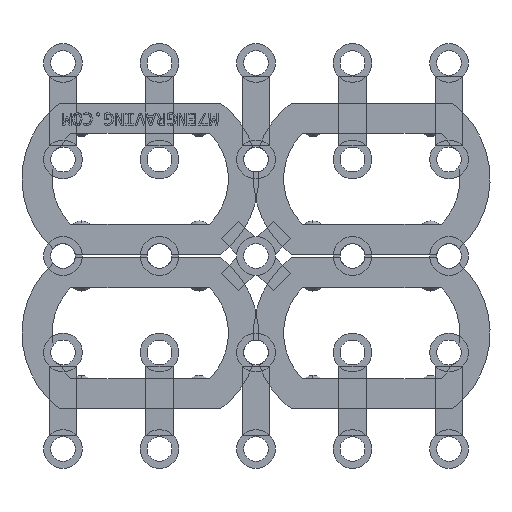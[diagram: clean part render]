
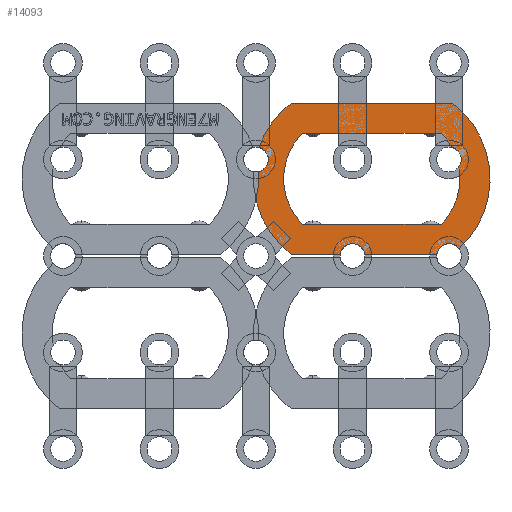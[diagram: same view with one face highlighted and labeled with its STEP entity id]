
A CAD part, front view. The second image highlights one B-rep face of the part: STEP entity #14093.
In plain terms, the highlighted planar face has unit normal (0, -1, 0).
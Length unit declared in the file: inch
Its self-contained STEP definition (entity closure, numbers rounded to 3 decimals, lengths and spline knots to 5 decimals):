
#27 = VERTEX_POINT ( 'NONE', #36053 ) ;
#145 = VERTEX_POINT ( 'NONE', #45286 ) ;
#1377 = CIRCLE ( 'NONE', #49859, 0.12598 ) ;
#1410 = DIRECTION ( 'NONE',  ( 0., -1., 0. ) ) ;
#2148 = EDGE_LOOP ( 'NONE', ( #16636, #15461, #48385, #39618, #18187, #45435 ) ) ;
#2540 = CIRCLE ( 'NONE', #21348, 0.65901 ) ;
#2716 = CIRCLE ( 'NONE', #12599, 0.96599 ) ;
#2901 = DIRECTION ( 'NONE',  ( -1., 0., 0. ) ) ;
#2913 = VERTEX_POINT ( 'NONE', #5153 ) ;
#3065 = DIRECTION ( 'NONE',  ( 0., 0., -1. ) ) ;
#3200 = DIRECTION ( 'NONE',  ( 0., 0., -1. ) ) ;
#3635 = VERTEX_POINT ( 'NONE', #37596 ) ;
#4073 = CARTESIAN_POINT ( 'NONE',  ( -0.79066, -0.25, -0.77099 ) ) ;
#4125 = VERTEX_POINT ( 'NONE', #26669 ) ;
#4253 = VERTEX_POINT ( 'NONE', #8488 ) ;
#4957 = EDGE_CURVE ( 'NONE', #13465, #20874, #1377, .T. ) ;
#5135 = FACE_OUTER_BOUND ( 'NONE', #20537, .T. ) ;
#5153 = CARTESIAN_POINT ( 'NONE',  ( -0.70796, -0.25, 0.46401 ) ) ;
#5266 = DIRECTION ( 'NONE',  ( 0., 0., -1. ) ) ;
#5584 = CARTESIAN_POINT ( 'NONE',  ( -0.24, -0.25, 0. ) ) ;
#6337 = ORIENTED_EDGE ( 'NONE', *, *, #15421, .T. ) ;
#6739 = DIRECTION ( 'NONE',  ( 0., 0., -1. ) ) ;
#6917 = DIRECTION ( 'NONE',  ( 0., -1., 0. ) ) ;
#7107 = VERTEX_POINT ( 'NONE', #43853 ) ;
#7158 = CIRCLE ( 'NONE', #40300, 0.96599 ) ;
#7319 = ORIENTED_EDGE ( 'NONE', *, *, #4957, .F. ) ;
#7932 = EDGE_CURVE ( 'NONE', #3635, #27, #7158, .T. ) ;
#8488 = CARTESIAN_POINT ( 'NONE',  ( -0.82199, -0.25, 0.77099 ) ) ;
#8886 = ORIENTED_EDGE ( 'NONE', *, *, #14097, .T. ) ;
#10384 = CARTESIAN_POINT ( 'NONE',  ( -0.07194, -0.25, -0.77099 ) ) ;
#10623 = CARTESIAN_POINT ( 'NONE',  ( -0.74446, -0.25, 0.46401 ) ) ;
#11737 = DIRECTION ( 'NONE',  ( 0., -1., 0. ) ) ;
#12599 = AXIS2_PLACEMENT_3D ( 'NONE', #29801, #49736, #37601 ) ;
#12669 = CIRCLE ( 'NONE', #13330, 0.12598 ) ;
#12691 = AXIS2_PLACEMENT_3D ( 'NONE', #31414, #19917, #46604 ) ;
#12852 = VERTEX_POINT ( 'NONE', #20287 ) ;
#13330 = AXIS2_PLACEMENT_3D ( 'NONE', #26122, #22240, #3065 ) ;
#13465 = VERTEX_POINT ( 'NONE', #19367 ) ;
#14093 = ADVANCED_FACE ( 'NONE', ( #5135, #24399 ), #49070, .T. ) ;
#14097 = EDGE_CURVE ( 'NONE', #13465, #145, #2716, .T. ) ;
#14177 = LINE ( 'NONE', #10623, #41404 ) ;
#14953 = CIRCLE ( 'NONE', #21170, 0.12598 ) ;
#15421 = EDGE_CURVE ( 'NONE', #26326, #20874, #26081, .T. ) ;
#15461 = ORIENTED_EDGE ( 'NONE', *, *, #35454, .F. ) ;
#15724 = EDGE_CURVE ( 'NONE', #2913, #29574, #43643, .T. ) ;
#16636 = ORIENTED_EDGE ( 'NONE', *, *, #20125, .F. ) ;
#17054 = CARTESIAN_POINT ( 'NONE',  ( 0.74446, -0.25, -0.46401 ) ) ;
#17691 = LINE ( 'NONE', #4073, #21326 ) ;
#17824 = EDGE_CURVE ( 'NONE', #26326, #48034, #12669, .T. ) ;
#17918 = VECTOR ( 'NONE', #44871, 39.37008 ) ;
#18136 = AXIS2_PLACEMENT_3D ( 'NONE', #5584, #1410, #5266 ) ;
#18187 = ORIENTED_EDGE ( 'NONE', *, *, #27364, .F. ) ;
#19291 = CIRCLE ( 'NONE', #33779, 0.12598 ) ;
#19367 = CARTESIAN_POINT ( 'NONE',  ( 0.89013, -0.25, -0.71447 ) ) ;
#19917 = DIRECTION ( 'NONE',  ( 0., -1., 0. ) ) ;
#20009 = CARTESIAN_POINT ( 'NONE',  ( -0.24, -0.25, 0. ) ) ;
#20125 = EDGE_CURVE ( 'NONE', #31878, #43821, #14953, .T. ) ;
#20287 = CARTESIAN_POINT ( 'NONE',  ( 0.70796, -0.25, 0.46401 ) ) ;
#20537 = EDGE_LOOP ( 'NONE', ( #27663, #6337, #7319, #8886, #49993, #20583, #30555, #49883, #30501, #26340 ) ) ;
#20583 = ORIENTED_EDGE ( 'NONE', *, *, #32844, .T. ) ;
#20874 = VERTEX_POINT ( 'NONE', #28418 ) ;
#21170 = AXIS2_PLACEMENT_3D ( 'NONE', #40151, #28636, #44339 ) ;
#21326 = VECTOR ( 'NONE', #23768, 39.37008 ) ;
#21348 = AXIS2_PLACEMENT_3D ( 'NONE', #38339, #42196, #35093 ) ;
#22240 = DIRECTION ( 'NONE',  ( 0., -1., 0. ) ) ;
#22435 = CARTESIAN_POINT ( 'NONE',  ( 0.88784, -0.25, 0.1208 ) ) ;
#22859 = CIRCLE ( 'NONE', #47742, 0.96599 ) ;
#23170 = CARTESIAN_POINT ( 'NONE',  ( -0.32176, -0.25, -0.77099 ) ) ;
#23768 = DIRECTION ( 'NONE',  ( 1., 0., 0. ) ) ;
#24399 = FACE_BOUND ( 'NONE', #2148, .T. ) ;
#25724 = DIRECTION ( 'NONE',  ( 0., -1., 0. ) ) ;
#25932 = DIRECTION ( 'NONE',  ( 0., -1., 0. ) ) ;
#25988 = DIRECTION ( 'NONE',  ( 1., 0., 0. ) ) ;
#26081 = LINE ( 'NONE', #41377, #48477 ) ;
#26122 = CARTESIAN_POINT ( 'NONE',  ( -0.19685, -0.25, -0.7874 ) ) ;
#26326 = VERTEX_POINT ( 'NONE', #10384 ) ;
#26340 = ORIENTED_EDGE ( 'NONE', *, *, #29503, .T. ) ;
#26669 = CARTESIAN_POINT ( 'NONE',  ( 0.70796, -0.25, -0.46401 ) ) ;
#26972 = CIRCLE ( 'NONE', #28725, 0.65901 ) ;
#27261 = DIRECTION ( 'NONE',  ( 0., 0., -1. ) ) ;
#27364 = EDGE_CURVE ( 'NONE', #12852, #2913, #14177, .T. ) ;
#27510 = VERTEX_POINT ( 'NONE', #49939 ) ;
#27663 = ORIENTED_EDGE ( 'NONE', *, *, #17824, .F. ) ;
#28418 = CARTESIAN_POINT ( 'NONE',  ( 0.66249, -0.25, -0.77099 ) ) ;
#28636 = DIRECTION ( 'NONE',  ( 0., -1., 0. ) ) ;
#28725 = AXIS2_PLACEMENT_3D ( 'NONE', #49994, #42821, #31166 ) ;
#28741 = VECTOR ( 'NONE', #44098, 39.37008 ) ;
#29092 = DIRECTION ( 'NONE',  ( 0., 0., -1. ) ) ;
#29503 = EDGE_CURVE ( 'NONE', #27, #48034, #17691, .T. ) ;
#29574 = VERTEX_POINT ( 'NONE', #43356 ) ;
#29801 = CARTESIAN_POINT ( 'NONE',  ( 0.24, -0.25, 0. ) ) ;
#29929 = DIRECTION ( 'NONE',  ( 0., 0., -1. ) ) ;
#30324 = CARTESIAN_POINT ( 'NONE',  ( -1.1811, -0.25, 0.19685 ) ) ;
#30501 = ORIENTED_EDGE ( 'NONE', *, *, #7932, .T. ) ;
#30555 = ORIENTED_EDGE ( 'NONE', *, *, #40848, .F. ) ;
#31166 = DIRECTION ( 'NONE',  ( 0., 0., -1. ) ) ;
#31233 = LINE ( 'NONE', #17054, #28741 ) ;
#31414 = CARTESIAN_POINT ( 'NONE',  ( -1.1811, -0.25, 0.19685 ) ) ;
#31650 = EDGE_CURVE ( 'NONE', #29574, #4125, #31233, .T. ) ;
#31878 = VERTEX_POINT ( 'NONE', #22435 ) ;
#32844 = EDGE_CURVE ( 'NONE', #4253, #27510, #22859, .T. ) ;
#32959 = CARTESIAN_POINT ( 'NONE',  ( -0.24, -0.25, 0. ) ) ;
#33779 = AXIS2_PLACEMENT_3D ( 'NONE', #30324, #6917, #3200 ) ;
#34948 = AXIS2_PLACEMENT_3D ( 'NONE', #37935, #25932, #6739 ) ;
#35093 = DIRECTION ( 'NONE',  ( 0., 0., -1. ) ) ;
#35127 = EDGE_CURVE ( 'NONE', #145, #4253, #43342, .T. ) ;
#35454 = EDGE_CURVE ( 'NONE', #4125, #31878, #26972, .T. ) ;
#36053 = CARTESIAN_POINT ( 'NONE',  ( -0.82199, -0.25, -0.77099 ) ) ;
#37198 = DIRECTION ( 'NONE',  ( 0., -1., 0. ) ) ;
#37596 = CARTESIAN_POINT ( 'NONE',  ( -1.20324, -0.25, 0.07283 ) ) ;
#37601 = DIRECTION ( 'NONE',  ( 0., 0., -1. ) ) ;
#37935 = CARTESIAN_POINT ( 'NONE',  ( -0.24, -0.25, 0. ) ) ;
#38339 = CARTESIAN_POINT ( 'NONE',  ( 0.24, -0.25, 0. ) ) ;
#39618 = ORIENTED_EDGE ( 'NONE', *, *, #15724, .F. ) ;
#40151 = CARTESIAN_POINT ( 'NONE',  ( 0.7874, -0.25, 0.19685 ) ) ;
#40300 = AXIS2_PLACEMENT_3D ( 'NONE', #32959, #37198, #29092 ) ;
#40544 = CIRCLE ( 'NONE', #12691, 0.12598 ) ;
#40848 = EDGE_CURVE ( 'NONE', #7107, #27510, #40544, .T. ) ;
#41370 = CARTESIAN_POINT ( 'NONE',  ( 0.8164, -0.25, 0.31945 ) ) ;
#41377 = CARTESIAN_POINT ( 'NONE',  ( -0.79066, -0.25, -0.77099 ) ) ;
#41404 = VECTOR ( 'NONE', #2901, 39.37008 ) ;
#42196 = DIRECTION ( 'NONE',  ( 0., -1., 0. ) ) ;
#42325 = EDGE_CURVE ( 'NONE', #3635, #7107, #19291, .T. ) ;
#42821 = DIRECTION ( 'NONE',  ( 0., -1., 0. ) ) ;
#43342 = LINE ( 'NONE', #44371, #17918 ) ;
#43356 = CARTESIAN_POINT ( 'NONE',  ( -0.70796, -0.25, -0.46401 ) ) ;
#43643 = CIRCLE ( 'NONE', #18136, 0.65901 ) ;
#43821 = VERTEX_POINT ( 'NONE', #41370 ) ;
#43853 = CARTESIAN_POINT ( 'NONE',  ( -1.1811, -0.25, 0.07087 ) ) ;
#44098 = DIRECTION ( 'NONE',  ( 1., 0., 0. ) ) ;
#44339 = DIRECTION ( 'NONE',  ( 0., 0., -1. ) ) ;
#44371 = CARTESIAN_POINT ( 'NONE',  ( 0.79066, -0.25, 0.77099 ) ) ;
#44648 = CARTESIAN_POINT ( 'NONE',  ( 0.7874, -0.25, -0.7874 ) ) ;
#44871 = DIRECTION ( 'NONE',  ( -1., 0., 0. ) ) ;
#45286 = CARTESIAN_POINT ( 'NONE',  ( 0.82199, -0.25, 0.77099 ) ) ;
#45435 = ORIENTED_EDGE ( 'NONE', *, *, #45945, .F. ) ;
#45945 = EDGE_CURVE ( 'NONE', #43821, #12852, #2540, .T. ) ;
#46604 = DIRECTION ( 'NONE',  ( 0., 0., -1. ) ) ;
#47742 = AXIS2_PLACEMENT_3D ( 'NONE', #20009, #11737, #27261 ) ;
#48034 = VERTEX_POINT ( 'NONE', #23170 ) ;
#48385 = ORIENTED_EDGE ( 'NONE', *, *, #31650, .F. ) ;
#48477 = VECTOR ( 'NONE', #25988, 39.37008 ) ;
#49070 = PLANE ( 'NONE',  #34948 ) ;
#49736 = DIRECTION ( 'NONE',  ( 0., -1., 0. ) ) ;
#49859 = AXIS2_PLACEMENT_3D ( 'NONE', #44648, #25724, #29929 ) ;
#49883 = ORIENTED_EDGE ( 'NONE', *, *, #42325, .F. ) ;
#49939 = CARTESIAN_POINT ( 'NONE',  ( -1.15168, -0.25, 0.31935 ) ) ;
#49993 = ORIENTED_EDGE ( 'NONE', *, *, #35127, .T. ) ;
#49994 = CARTESIAN_POINT ( 'NONE',  ( 0.24, -0.25, 0. ) ) ;
